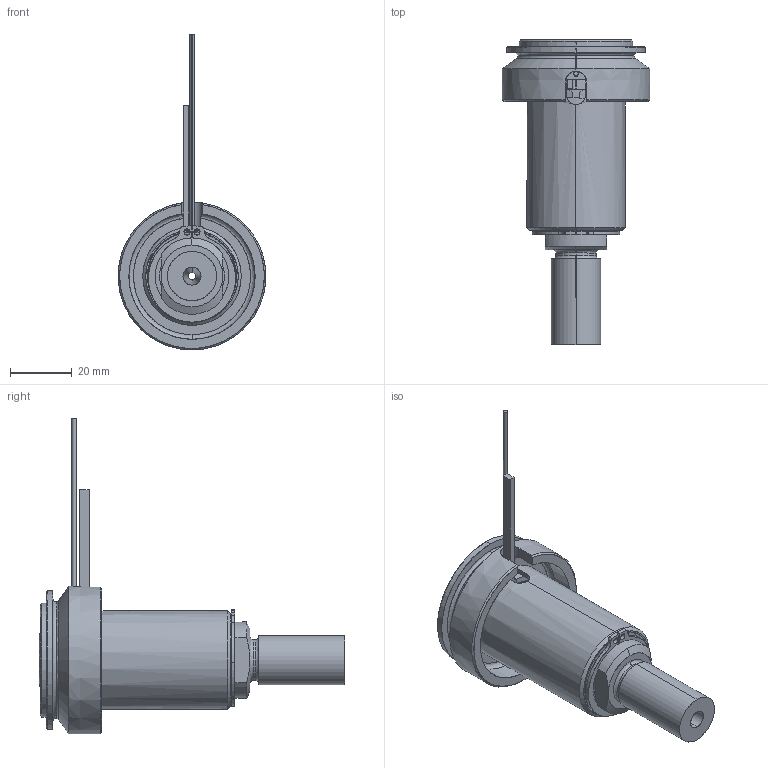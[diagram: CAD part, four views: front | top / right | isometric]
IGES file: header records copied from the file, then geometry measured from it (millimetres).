
Start section: SolidWorks IGES file using analytic representation for surfaces
Global section: file name: C:\Documents and Settings\ws-20\Desktop\TEMPORANEA\UGBE5001-M-A-P-3 [Ød-2.5 P-25 ØC-13].IGS; native system: SolidWorks 2012; preprocessor: SolidWorks 2012; author: ws-20; date: 120306.161352; units: millimetre
Bounding box: 48 x 99.25 x 102.65 mm (x, y, z)
Surface area: 30971.2 mm2 (no closed solid volume)
Topology: 0 solids, 0 shells, 109 faces, 2084 edges, 2084 vertices
Faces by surface type: revolution 63, bspline 46
